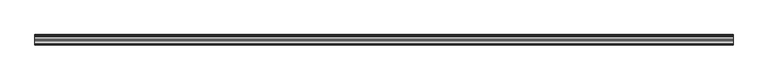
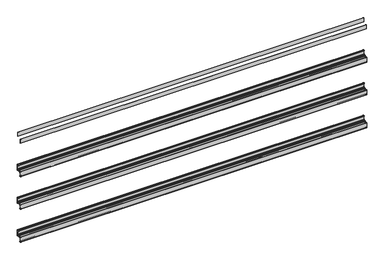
"""IFC4 building model written with IfcOpenShell, lengths in millimetres: fastener geometry."""

from ifc_helpers import new_model, si_unit, frame, origin, place, context, project, spatial, polyline, circle_curve, outline, extrude, source, transform, mapped, element, save
from ifc_brep_helpers import plane_surface, cylinder_surface, revolved_surface, advanced_brep


def fastener_a8222be2(model_context):
    return source(origin(), model_context, "Body", "SolidModel", [
        extrude(outline(polyline([(2540.0, -3.556), (2540.0, -5.2832), (0.0, -5.2832), (0.0, -3.556), (2540.0, -3.556)])), frame((0.0, 0.0, 1359.281), z_axis=(0.0, 0.0, 1.0), x_axis=(1.0, 0.0, 0.0)), (0.0, 0.0, 1.0), 30.988),
        extrude(outline(polyline([(2540.0, -33.7057766), (2540.0, -35.4329766), (0.0, -35.4329766), (0.0, -33.7057766), (2540.0, -33.7057766)])), frame((0.0, 0.0, 1324.102), z_axis=(0.0, 0.0, 1.0), x_axis=(1.0, 0.0, 0.0)), (0.0, 0.0, 1.0), 30.988),
        advanced_brep(
        [(2540.0, -3.556, 1136.269), (2540.0, -3.556, 1105.281), (2540.0, -5.2832, 1105.281), (2540.0, -5.2832, 1109.472), (2540.0, -7.3152, 1109.472), (2540.0, -7.3152, 1105.281), (2540.0, -8.0772, 1104.519), (2540.0, -17.7601563, 1104.519), (2540.0, -17.7601563, 1105.3674433), (2540.0, -20.4288947, 1105.3674433), (2540.0, -20.4288947, 1104.519), (2540.0, -37.3379766, 1104.519), (2540.0, -38.0999766, 1103.757), (2540.0, -38.1, 1067.5196758), (2540.0, -37.3379766, 1066.8), (2540.0, -33.7057766, 1066.8), (2540.0, -31.6737766, 1068.832), (2540.0, -31.6737766, 1071.118), (2540.0, -33.7057766, 1071.118), (2540.0, -33.7057766, 1070.102), (2540.0, -35.4329766, 1070.102), (2540.0, -35.4329766, 1101.09), (2540.0, -33.7057766, 1101.09), (2540.0, -33.7057766, 1096.899), (2540.0, -31.6737766, 1096.899), (2540.0, -31.6737766, 1101.09), (2540.0, -30.9117766, 1101.852), (2540.0, -20.4279799, 1101.852), (2540.0, -20.4279799, 1101.0030993), (2540.0, -17.7601563, 1101.0030993), (2540.0, -17.7601563, 1101.852), (2540.0, -3.429, 1101.852), (2540.0, -2.667, 1101.09), (2540.0, -2.667, 1094.994), (2540.0, 0.0, 1094.994), (2540.0, 0.0, 1138.809), (2540.0, -0.762, 1139.571), (2540.0, -5.2832, 1139.571), (2540.0, -7.3152, 1137.539), (2540.0, -7.3152, 1135.253), (2540.0, -5.2832, 1135.253), (2540.0, -5.2832, 1136.269), (0.0, -3.556, 1136.269), (0.0, -5.2832, 1136.269), (0.0, -5.2832, 1135.253), (0.0, -7.3152, 1135.253), (0.0, -7.3152, 1137.539), (0.0, -5.2832, 1139.571), (0.0, -0.762, 1139.571), (0.0, 0.0, 1138.809), (0.0, 0.0, 1094.994), (0.0, -2.667, 1094.994), (0.0, -2.667, 1101.09), (0.0, -3.429, 1101.852), (0.0, -17.7601563, 1101.852), (0.0, -17.7601563, 1101.0030993), (0.0, -20.4279799, 1101.0030993), (0.0, -20.4279799, 1101.852), (0.0, -30.9117766, 1101.852), (0.0, -31.6737766, 1101.09), (0.0, -31.6737766, 1096.899), (0.0, -33.7057766, 1096.899), (0.0, -33.7057766, 1101.09), (0.0, -35.4329766, 1101.09), (0.0, -35.4329766, 1070.102), (0.0, -33.7057766, 1070.102), (0.0, -33.7057766, 1071.118), (0.0, -31.6737766, 1071.118), (0.0, -31.6737766, 1068.832), (0.0, -33.7057766, 1066.8), (0.0, -37.3379766, 1066.8), (0.0, -38.0999766, 1067.562), (0.0, -38.1, 1103.6242174), (0.0, -37.3379766, 1104.519), (0.0, -20.4288947, 1104.519), (0.0, -20.4288947, 1105.3674433), (0.0, -17.7601563, 1105.3674433), (0.0, -17.7601563, 1104.519), (0.0, -8.0772, 1104.519), (0.0, -7.3152, 1105.281), (0.0, -7.3152, 1109.472), (0.0, -5.2832, 1109.472), (0.0, -5.2832, 1105.281), (0.0, -3.556, 1105.281)],
        [
            (0, 1),
            (1, 2, circle_curve(frame((2540.0, -4.4196, 1105.281), z_axis=(-1.0, 0.0, 0.0), x_axis=(0.0, 1.0, 0.0)), 0.8636)),
            (2, 3),
            (3, 4, circle_curve(frame((2540.0, -6.2992, 1109.472), z_axis=(1.0, 0.0, 0.0), x_axis=(0.0, 1.0, 0.0)), 1.016)),
            (4, 5),
            (5, 6, circle_curve(frame((2540.0, -8.0772, 1105.281), z_axis=(-1.0, 0.0, 0.0), x_axis=(0.0, 1.0, 0.0)), 0.762)),
            (6, 7),
            (7, 8),
            (8, 9, circle_curve(frame((2540.0, -19.0945255, 1105.3674433), z_axis=(1.0, 0.0, 0.0), x_axis=(0.0, 1.0, 0.0)), 1.3343692)),
            (9, 10),
            (10, 11),
            (11, 12, circle_curve(frame((2540.0, -37.3379766, 1103.757), z_axis=(1.0, 0.0, 0.0), x_axis=(0.0, 1.0, 0.0)), 0.762)),
            (12, 13),
            (13, 14, circle_curve(frame((2540.0, -37.3379766, 1067.562), z_axis=(1.0, 0.0, 0.0), x_axis=(0.0, 1.0, 0.0)), 0.762)),
            (14, 15),
            (15, 16, circle_curve(frame((2540.0, -33.7057766, 1068.832), z_axis=(1.0, 0.0, 0.0), x_axis=(0.0, 1.0, 0.0)), 2.032)),
            (16, 17),
            (17, 18, circle_curve(frame((2540.0, -32.6897766, 1071.118), z_axis=(1.0, 0.0, 0.0), x_axis=(0.0, 1.0, 0.0)), 1.016)),
            (18, 19),
            (19, 20, circle_curve(frame((2540.0, -34.5693766, 1070.102), z_axis=(-1.0, 0.0, 0.0), x_axis=(0.0, 1.0, 0.0)), 0.8636)),
            (20, 21),
            (21, 22, circle_curve(frame((2540.0, -34.5693766, 1101.09), z_axis=(-1.0, 0.0, 0.0), x_axis=(0.0, 1.0, 0.0)), 0.8636)),
            (22, 23),
            (23, 24, circle_curve(frame((2540.0, -32.6897766, 1096.899), z_axis=(1.0, 0.0, 0.0), x_axis=(0.0, 1.0, 0.0)), 1.016)),
            (24, 25),
            (25, 26, circle_curve(frame((2540.0, -30.9117766, 1101.09), z_axis=(-1.0, 0.0, 0.0), x_axis=(0.0, 1.0, 0.0)), 0.762)),
            (26, 27),
            (27, 28),
            (28, 29, circle_curve(frame((2540.0, -19.0940681, 1101.0030993), z_axis=(1.0, 0.0, 0.0), x_axis=(0.0, 1.0, 0.0)), 1.3339118)),
            (29, 30),
            (30, 31),
            (31, 32, circle_curve(frame((2540.0, -3.429, 1101.09), z_axis=(-1.0, 0.0, 0.0), x_axis=(0.0, 1.0, 0.0)), 0.762)),
            (32, 33),
            (33, 34, circle_curve(frame((2540.0, -1.3335, 1094.994), z_axis=(1.0, 0.0, 0.0), x_axis=(0.0, 1.0, 0.0)), 1.3335)),
            (34, 35),
            (35, 36, circle_curve(frame((2540.0, -0.762, 1138.809), z_axis=(1.0, 0.0, 0.0), x_axis=(0.0, 1.0, 0.0)), 0.762)),
            (36, 37),
            (37, 38, circle_curve(frame((2540.0, -5.2832, 1137.539), z_axis=(1.0, 0.0, 0.0), x_axis=(0.0, 1.0, 0.0)), 2.032)),
            (38, 39),
            (39, 40, circle_curve(frame((2540.0, -6.2992, 1135.253), z_axis=(1.0, 0.0, 0.0), x_axis=(0.0, 1.0, 0.0)), 1.016)),
            (40, 41),
            (41, 0, circle_curve(frame((2540.0, -4.4196, 1136.269), z_axis=(-1.0, 0.0, 0.0), x_axis=(0.0, 1.0, 0.0)), 0.8636)),
            (42, 43, circle_curve(frame((0.0, -4.4196, 1136.269), z_axis=(1.0, 0.0, 0.0), x_axis=(0.0, 1.0, 0.0)), 0.8636)),
            (43, 44),
            (44, 45, circle_curve(frame((0.0, -6.2992, 1135.253), z_axis=(-1.0, 0.0, 0.0), x_axis=(0.0, 1.0, 0.0)), 1.016)),
            (45, 46),
            (46, 47, circle_curve(frame((0.0, -5.2832, 1137.539), z_axis=(-1.0, 0.0, 0.0), x_axis=(0.0, 1.0, 0.0)), 2.032)),
            (47, 48),
            (48, 49, circle_curve(frame((0.0, -0.762, 1138.809), z_axis=(-1.0, 0.0, 0.0), x_axis=(0.0, 1.0, 0.0)), 0.762)),
            (49, 50),
            (50, 51, circle_curve(frame((0.0, -1.3335, 1094.994), z_axis=(-1.0, 0.0, 0.0), x_axis=(0.0, 1.0, 0.0)), 1.3335)),
            (51, 52),
            (52, 53, circle_curve(frame((0.0, -3.429, 1101.09), z_axis=(1.0, 0.0, 0.0), x_axis=(0.0, 1.0, 0.0)), 0.762)),
            (53, 54),
            (54, 55),
            (55, 56, circle_curve(frame((0.0, -19.0940681, 1101.0030993), z_axis=(-1.0, 0.0, 0.0), x_axis=(0.0, 1.0, 0.0)), 1.3339118)),
            (56, 57),
            (57, 58),
            (58, 59, circle_curve(frame((0.0, -30.9117766, 1101.09), z_axis=(1.0, 0.0, 0.0), x_axis=(0.0, 1.0, 0.0)), 0.762)),
            (59, 60),
            (60, 61, circle_curve(frame((0.0, -32.6897766, 1096.899), z_axis=(-1.0, 0.0, 0.0), x_axis=(0.0, 1.0, 0.0)), 1.016)),
            (61, 62),
            (62, 63, circle_curve(frame((0.0, -34.5693766, 1101.09), z_axis=(1.0, 0.0, 0.0), x_axis=(0.0, 1.0, 0.0)), 0.8636)),
            (63, 64),
            (64, 65, circle_curve(frame((0.0, -34.5693766, 1070.102), z_axis=(1.0, 0.0, 0.0), x_axis=(0.0, 1.0, 0.0)), 0.8636)),
            (65, 66),
            (66, 67, circle_curve(frame((0.0, -32.6897766, 1071.118), z_axis=(-1.0, 0.0, 0.0), x_axis=(0.0, 1.0, 0.0)), 1.016)),
            (67, 68),
            (68, 69, circle_curve(frame((0.0, -33.7057766, 1068.832), z_axis=(-1.0, 0.0, 0.0), x_axis=(0.0, 1.0, 0.0)), 2.032)),
            (69, 70),
            (70, 71, circle_curve(frame((0.0, -37.3379766, 1067.562), z_axis=(-1.0, 0.0, 0.0), x_axis=(0.0, 1.0, 0.0)), 0.762)),
            (71, 72),
            (72, 73, circle_curve(frame((0.0, -37.3379766, 1103.757), z_axis=(-1.0, 0.0, 0.0), x_axis=(0.0, 1.0, 0.0)), 0.762)),
            (73, 74),
            (74, 75),
            (75, 76, circle_curve(frame((0.0, -19.0945255, 1105.3674433), z_axis=(-1.0, 0.0, 0.0), x_axis=(0.0, 1.0, 0.0)), 1.3343692)),
            (76, 77),
            (77, 78),
            (78, 79, circle_curve(frame((0.0, -8.0772, 1105.281), z_axis=(1.0, 0.0, 0.0), x_axis=(0.0, 1.0, 0.0)), 0.762)),
            (79, 80),
            (80, 81, circle_curve(frame((0.0, -6.2992, 1109.472), z_axis=(-1.0, 0.0, 0.0), x_axis=(0.0, 1.0, 0.0)), 1.016)),
            (81, 82),
            (82, 83, circle_curve(frame((0.0, -4.4196, 1105.281), z_axis=(1.0, 0.0, 0.0), x_axis=(0.0, 1.0, 0.0)), 0.8636)),
            (83, 42),
            (0, 42),
            (83, 1),
            (82, 2),
            (81, 3),
            (80, 4),
            (79, 5),
            (78, 6),
            (77, 7),
            (76, 8),
            (75, 9),
            (74, 10),
            (73, 11),
            (72, 12),
            (71, 13),
            (70, 14),
            (69, 15),
            (68, 16),
            (67, 17),
            (66, 18),
            (65, 19),
            (64, 20),
            (63, 21),
            (62, 22),
            (61, 23),
            (60, 24),
            (59, 25),
            (58, 26),
            (57, 27),
            (56, 28),
            (55, 29),
            (54, 30),
            (53, 31),
            (52, 32),
            (51, 33),
            (50, 34),
            (49, 35),
            (48, 36),
            (47, 37),
            (46, 38),
            (45, 39),
            (44, 40),
            (43, 41),
        ],
        [
            plane_surface(frame((2540.0, -3.556, 1105.281), z_axis=(1.0, 0.0, 0.0), x_axis=(0.0, 0.0, -1.0))),
            plane_surface(frame((0.0, -3.556, 1105.281), z_axis=(-1.0, 0.0, 0.0), x_axis=(0.0, 0.0, 1.0))),
            plane_surface(frame((2540.0, -3.556, 1136.269), z_axis=(0.0, -1.0, 0.0), x_axis=(-1.0, 0.0, 0.0))),
            revolved_surface(polyline([(0.0, -3.556, 1105.281), (2540.0, -3.556, 1105.281)]), (0.0, -4.4196, 1105.281), (-1.0, 0.0, 0.0)),
            plane_surface(frame((2540.0, -5.2832, 1105.281), z_axis=(0.0, 1.0, 0.0), x_axis=(-1.0, 0.0, 0.0))),
            cylinder_surface(frame((0.0, -6.2992, 1109.472), z_axis=(1.0, 0.0, 0.0), x_axis=(0.0, 1.0, 0.0)), 1.016),
            plane_surface(frame((2540.0, -7.3152, 1109.472), z_axis=(0.0, -1.0, 0.0), x_axis=(-1.0, 0.0, 0.0))),
            revolved_surface(polyline([(0.0, -7.315199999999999, 1105.281), (2540.0, -7.315199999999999, 1105.281)]), (0.0, -8.0772, 1105.281), (-1.0, 0.0, 0.0)),
            plane_surface(frame((2540.0, -8.0772, 1104.519), z_axis=(0.0, 0.0, 1.0), x_axis=(-1.0, 0.0, 0.0))),
            plane_surface(frame((2540.0, -17.7601563, 1104.519), z_axis=(0.0, 1.0, 0.0), x_axis=(-1.0, 0.0, 0.0))),
            cylinder_surface(frame((0.0, -19.0945255, 1105.3674433), z_axis=(1.0, 0.0, 0.0), x_axis=(0.0, 1.0, 0.0)), 1.3343692),
            plane_surface(frame((2540.0, -20.4288947, 1105.3674433), z_axis=(0.0, -1.0, 0.0), x_axis=(-1.0, 0.0, 0.0))),
            plane_surface(frame((2540.0, -20.4288947, 1104.519), z_axis=(0.0, 0.0, 1.0), x_axis=(-1.0, 0.0, 0.0))),
            cylinder_surface(frame((0.0, -37.3379766, 1103.757), z_axis=(1.0, 0.0, 0.0), x_axis=(0.0, 1.0, 0.0)), 0.762),
            plane_surface(frame((2540.0, -38.1, 1103.6242174), z_axis=(0.0, -1.0, 0.0), x_axis=(-1.0, 0.0, 0.0))),
            cylinder_surface(frame((0.0, -37.3379766, 1067.562), z_axis=(1.0, 0.0, 0.0), x_axis=(0.0, 1.0, 0.0)), 0.762),
            plane_surface(frame((2540.0, -37.3379766, 1066.8), z_axis=(0.0, 1.080720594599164e-12, -1.0), x_axis=(-1.0, 0.0, 0.0))),
            cylinder_surface(frame((0.0, -33.7057766, 1068.832), z_axis=(1.0, 0.0, 0.0), x_axis=(0.0, 1.0, 0.0)), 2.032),
            plane_surface(frame((2540.0, -31.6737766, 1068.832), z_axis=(0.0, 1.0, 0.0), x_axis=(-1.0, 0.0, 0.0))),
            cylinder_surface(frame((0.0, -32.6897766, 1071.118), z_axis=(1.0, 0.0, 0.0), x_axis=(0.0, 1.0, 0.0)), 1.016),
            plane_surface(frame((2540.0, -33.7057766, 1071.118), z_axis=(0.0, -1.0, 0.0), x_axis=(-1.0, 0.0, 0.0))),
            revolved_surface(polyline([(0.0, -33.7057766, 1070.102), (2540.0, -33.7057766, 1070.102)]), (0.0, -34.5693766, 1070.102), (-1.0, 0.0, 0.0)),
            plane_surface(frame((2540.0, -35.4329766, 1070.102), z_axis=(0.0, 1.0, 0.0), x_axis=(-1.0, 0.0, 0.0))),
            revolved_surface(polyline([(0.0, -33.7057766, 1101.09), (2540.0, -33.7057766, 1101.09)]), (0.0, -34.5693766, 1101.09), (-1.0, 0.0, 0.0)),
            plane_surface(frame((2540.0, -33.7057766, 1101.09), z_axis=(0.0, -1.0, 0.0), x_axis=(-1.0, 0.0, 0.0))),
            cylinder_surface(frame((0.0, -32.6897766, 1096.899), z_axis=(1.0, 0.0, 0.0), x_axis=(0.0, 1.0, 0.0)), 1.016),
            plane_surface(frame((2540.0, -31.6737766, 1096.899), z_axis=(0.0, 1.0, 0.0), x_axis=(-1.0, 0.0, 0.0))),
            revolved_surface(polyline([(0.0, -30.1497766, 1101.09), (2540.0, -30.1497766, 1101.09)]), (0.0, -30.9117766, 1101.09), (-1.0, 0.0, 0.0)),
            plane_surface(frame((2540.0, -30.9117766, 1101.852), z_axis=(0.0, 0.0, -1.0), x_axis=(-1.0, 0.0, 0.0))),
            plane_surface(frame((2540.0, -20.4279799, 1101.852), z_axis=(0.0, -1.0, 0.0), x_axis=(-1.0, 0.0, 0.0))),
            cylinder_surface(frame((0.0, -19.0940681, 1101.0030993), z_axis=(1.0, 0.0, 0.0), x_axis=(0.0, 1.0, 0.0)), 1.3339118),
            plane_surface(frame((2540.0, -17.7601563, 1101.0030993), z_axis=(0.0, 1.0, 0.0), x_axis=(-1.0, 0.0, 0.0))),
            plane_surface(frame((2540.0, -17.7601563, 1101.852), z_axis=(0.0, 0.0, -1.0), x_axis=(-1.0, 0.0, 0.0))),
            revolved_surface(polyline([(0.0, -2.667, 1101.09), (2540.0, -2.667, 1101.09)]), (0.0, -3.429, 1101.09), (-1.0, 0.0, 0.0)),
            plane_surface(frame((2540.0, -2.667, 1101.09), z_axis=(0.0, -1.0, 0.0), x_axis=(-1.0, 0.0, 0.0))),
            cylinder_surface(frame((0.0, -1.3335, 1094.994), z_axis=(1.0, 0.0, 0.0), x_axis=(0.0, 1.0, 0.0)), 1.3335),
            plane_surface(frame((2540.0, 0.0, 1094.994), z_axis=(0.0, 1.0, 0.0), x_axis=(-1.0, 0.0, 0.0))),
            cylinder_surface(frame((0.0, -0.762, 1138.809), z_axis=(1.0, 0.0, 0.0), x_axis=(0.0, 1.0, 0.0)), 0.762),
            plane_surface(frame((2540.0, -0.762, 1139.571), z_axis=(0.0, 1.6915308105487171e-12, 1.0), x_axis=(-1.0, 0.0, 0.0))),
            cylinder_surface(frame((0.0, -5.2832, 1137.539), z_axis=(1.0, 0.0, 0.0), x_axis=(0.0, 1.0, 0.0)), 2.032),
            plane_surface(frame((2540.0, -7.3152, 1137.539), z_axis=(0.0, -1.0, 0.0), x_axis=(-1.0, 0.0, 0.0))),
            cylinder_surface(frame((0.0, -6.2992, 1135.253), z_axis=(1.0, 0.0, 0.0), x_axis=(0.0, 1.0, 0.0)), 1.016),
            plane_surface(frame((2540.0, -5.2832, 1135.253), z_axis=(0.0, 1.0, 0.0), x_axis=(-1.0, 0.0, 0.0))),
            revolved_surface(polyline([(0.0, -3.556, 1136.269), (2540.0, -3.556, 1136.269)]), (0.0, -4.4196, 1136.269), (-1.0, 0.0, 0.0)),
        ],
        [
            (0, [[1, 2, 3, 4, 5, 6, 7, 8, 9, 10, 11, 12, 13, 14, 15, 16, 17, 18, 19, 20, 21, 22, 23, 24, 25, 26, 27, 28, 29, 30, 31, 32, 33, 34, 35, 36, 37, 38, 39, 40, 41, 42]]),
            (1, [[43, 44, 45, 46, 47, 48, 49, 50, 51, 52, 53, 54, 55, 56, 57, 58, 59, 60, 61, 62, 63, 64, 65, 66, 67, 68, 69, 70, 71, 72, 73, 74, 75, 76, 77, 78, 79, 80, 81, 82, 83, 84]]),
            (2, [[-1, 85, -84, 86]]),
            (3, [[-2, -86, -83, 87]]),
            (4, [[-3, -87, -82, 88]]),
            (5, [[-4, -88, -81, 89]]),
            (6, [[-5, -89, -80, 90]]),
            (7, [[-6, -90, -79, 91]]),
            (8, [[-7, -91, -78, 92]]),
            (9, [[-8, -92, -77, 93]]),
            (10, [[-9, -93, -76, 94]]),
            (11, [[-10, -94, -75, 95]]),
            (12, [[-11, -95, -74, 96]]),
            (13, [[-12, -96, -73, 97]]),
            (14, [[-13, -97, -72, 98]]),
            (15, [[-14, -98, -71, 99]]),
            (16, [[-15, -99, -70, 100]]),
            (17, [[-16, -100, -69, 101]]),
            (18, [[-17, -101, -68, 102]]),
            (19, [[-18, -102, -67, 103]]),
            (20, [[-19, -103, -66, 104]]),
            (21, [[-20, -104, -65, 105]]),
            (22, [[-21, -105, -64, 106]]),
            (23, [[-22, -106, -63, 107]]),
            (24, [[-23, -107, -62, 108]]),
            (25, [[-24, -108, -61, 109]]),
            (26, [[-25, -109, -60, 110]]),
            (27, [[-26, -110, -59, 111]]),
            (28, [[-27, -111, -58, 112]]),
            (29, [[-28, -112, -57, 113]]),
            (30, [[-29, -113, -56, 114]]),
            (31, [[-30, -114, -55, 115]]),
            (32, [[-31, -115, -54, 116]]),
            (33, [[-32, -116, -53, 117]]),
            (34, [[-33, -117, -52, 118]]),
            (35, [[-34, -118, -51, 119]]),
            (36, [[-35, -119, -50, 120]]),
            (37, [[-36, -120, -49, 121]]),
            (38, [[-37, -121, -48, 122]]),
            (39, [[-38, -122, -47, 123]]),
            (40, [[-39, -123, -46, 124]]),
            (41, [[-40, -124, -45, 125]]),
            (42, [[-41, -125, -44, 126]]),
            (43, [[-42, -126, -43, -85]]),
        ],
    ),
        extrude(outline(polyline([(2540.0, -3.556), (2540.0, -5.2832), (0.0, -5.2832), (0.0, -3.556), (2540.0, -3.556)])), frame((0.0, 0.0, 1105.281), z_axis=(0.0, 0.0, 1.0), x_axis=(1.0, 0.0, 0.0)), (0.0, 0.0, 1.0), 30.988),
        extrude(outline(polyline([(2540.0, -33.7057766), (2540.0, -35.4329766), (0.0, -35.4329766), (0.0, -33.7057766), (2540.0, -33.7057766)])), frame((0.0, 0.0, 1070.102), z_axis=(0.0, 0.0, 1.0), x_axis=(1.0, 0.0, 0.0)), (0.0, 0.0, 1.0), 30.988),
        advanced_brep(
        [(2540.0, -3.556, 882.269), (2540.0, -3.556, 851.281), (2540.0, -5.2832, 851.281), (2540.0, -5.2832, 855.472), (2540.0, -7.3152, 855.472), (2540.0, -7.3152, 851.281), (2540.0, -8.0772, 850.519), (2540.0, -17.7601563, 850.519), (2540.0, -17.7601563, 851.3674433), (2540.0, -20.4288947, 851.3674433), (2540.0, -20.4288947, 850.519), (2540.0, -37.3379766, 850.519), (2540.0, -38.0999766, 849.757), (2540.0, -38.1, 813.5196758), (2540.0, -37.3379766, 812.8), (2540.0, -33.7057766, 812.8), (2540.0, -31.6737766, 814.832), (2540.0, -31.6737766, 817.118), (2540.0, -33.7057766, 817.118), (2540.0, -33.7057766, 816.102), (2540.0, -35.4329766, 816.102), (2540.0, -35.4329766, 847.09), (2540.0, -33.7057766, 847.09), (2540.0, -33.7057766, 842.899), (2540.0, -31.6737766, 842.899), (2540.0, -31.6737766, 847.09), (2540.0, -30.9117766, 847.852), (2540.0, -20.4279799, 847.852), (2540.0, -20.4279799, 847.0030993), (2540.0, -17.7601563, 847.0030993), (2540.0, -17.7601563, 847.852), (2540.0, -3.429, 847.852), (2540.0, -2.667, 847.09), (2540.0, -2.667, 840.994), (2540.0, 0.0, 840.994), (2540.0, 0.0, 884.809), (2540.0, -0.762, 885.571), (2540.0, -5.2832, 885.571), (2540.0, -7.3152, 883.539), (2540.0, -7.3152, 881.253), (2540.0, -5.2832, 881.253), (2540.0, -5.2832, 882.269), (0.0, -3.556, 882.269), (0.0, -5.2832, 882.269), (0.0, -5.2832, 881.253), (0.0, -7.3152, 881.253), (0.0, -7.3152, 883.539), (0.0, -5.2832, 885.571), (0.0, -0.762, 885.571), (0.0, 0.0, 884.809), (0.0, 0.0, 840.994), (0.0, -2.667, 840.994), (0.0, -2.667, 847.09), (0.0, -3.429, 847.852), (0.0, -17.7601563, 847.852), (0.0, -17.7601563, 847.0030993), (0.0, -20.4279799, 847.0030993), (0.0, -20.4279799, 847.852), (0.0, -30.9117766, 847.852), (0.0, -31.6737766, 847.09), (0.0, -31.6737766, 842.899), (0.0, -33.7057766, 842.899), (0.0, -33.7057766, 847.09), (0.0, -35.4329766, 847.09), (0.0, -35.4329766, 816.102), (0.0, -33.7057766, 816.102), (0.0, -33.7057766, 817.118), (0.0, -31.6737766, 817.118), (0.0, -31.6737766, 814.832), (0.0, -33.7057766, 812.8), (0.0, -37.3379766, 812.8), (0.0, -38.0999766, 813.562), (0.0, -38.1, 849.6242174), (0.0, -37.3379766, 850.519), (0.0, -20.4288947, 850.519), (0.0, -20.4288947, 851.3674433), (0.0, -17.7601563, 851.3674433), (0.0, -17.7601563, 850.519), (0.0, -8.0772, 850.519), (0.0, -7.3152, 851.281), (0.0, -7.3152, 855.472), (0.0, -5.2832, 855.472), (0.0, -5.2832, 851.281), (0.0, -3.556, 851.281)],
        [
            (0, 1),
            (1, 2, circle_curve(frame((2540.0, -4.4196, 851.281), z_axis=(-1.0, 0.0, 0.0), x_axis=(0.0, 1.0, 0.0)), 0.8636)),
            (2, 3),
            (3, 4, circle_curve(frame((2540.0, -6.2992, 855.472), z_axis=(1.0, 0.0, 0.0), x_axis=(0.0, 1.0, 0.0)), 1.016)),
            (4, 5),
            (5, 6, circle_curve(frame((2540.0, -8.0772, 851.281), z_axis=(-1.0, 0.0, 0.0), x_axis=(0.0, 1.0, 0.0)), 0.762)),
            (6, 7),
            (7, 8),
            (8, 9, circle_curve(frame((2540.0, -19.0945255, 851.3674433), z_axis=(1.0, 0.0, 0.0), x_axis=(0.0, 1.0, 0.0)), 1.3343692)),
            (9, 10),
            (10, 11),
            (11, 12, circle_curve(frame((2540.0, -37.3379766, 849.757), z_axis=(1.0, 0.0, 0.0), x_axis=(0.0, 1.0, 0.0)), 0.762)),
            (12, 13),
            (13, 14, circle_curve(frame((2540.0, -37.3379766, 813.562), z_axis=(1.0, 0.0, 0.0), x_axis=(0.0, 1.0, 0.0)), 0.762)),
            (14, 15),
            (15, 16, circle_curve(frame((2540.0, -33.7057766, 814.832), z_axis=(1.0, 0.0, 0.0), x_axis=(0.0, 1.0, 0.0)), 2.032)),
            (16, 17),
            (17, 18, circle_curve(frame((2540.0, -32.6897766, 817.118), z_axis=(1.0, 0.0, 0.0), x_axis=(0.0, 1.0, 0.0)), 1.016)),
            (18, 19),
            (19, 20, circle_curve(frame((2540.0, -34.5693766, 816.102), z_axis=(-1.0, 0.0, 0.0), x_axis=(0.0, 1.0, 0.0)), 0.8636)),
            (20, 21),
            (21, 22, circle_curve(frame((2540.0, -34.5693766, 847.09), z_axis=(-1.0, 0.0, 0.0), x_axis=(0.0, 1.0, 0.0)), 0.8636)),
            (22, 23),
            (23, 24, circle_curve(frame((2540.0, -32.6897766, 842.899), z_axis=(1.0, 0.0, 0.0), x_axis=(0.0, 1.0, 0.0)), 1.016)),
            (24, 25),
            (25, 26, circle_curve(frame((2540.0, -30.9117766, 847.09), z_axis=(-1.0, 0.0, 0.0), x_axis=(0.0, 1.0, 0.0)), 0.762)),
            (26, 27),
            (27, 28),
            (28, 29, circle_curve(frame((2540.0, -19.0940681, 847.0030993), z_axis=(1.0, 0.0, 0.0), x_axis=(0.0, 1.0, 0.0)), 1.3339118)),
            (29, 30),
            (30, 31),
            (31, 32, circle_curve(frame((2540.0, -3.429, 847.09), z_axis=(-1.0, 0.0, 0.0), x_axis=(0.0, 1.0, 0.0)), 0.762)),
            (32, 33),
            (33, 34, circle_curve(frame((2540.0, -1.3335, 840.994), z_axis=(1.0, 0.0, 0.0), x_axis=(0.0, 1.0, 0.0)), 1.3335)),
            (34, 35),
            (35, 36, circle_curve(frame((2540.0, -0.762, 884.809), z_axis=(1.0, 0.0, 0.0), x_axis=(0.0, 1.0, 0.0)), 0.762)),
            (36, 37),
            (37, 38, circle_curve(frame((2540.0, -5.2832, 883.539), z_axis=(1.0, 0.0, 0.0), x_axis=(0.0, 1.0, 0.0)), 2.032)),
            (38, 39),
            (39, 40, circle_curve(frame((2540.0, -6.2992, 881.253), z_axis=(1.0, 0.0, 0.0), x_axis=(0.0, 1.0, 0.0)), 1.016)),
            (40, 41),
            (41, 0, circle_curve(frame((2540.0, -4.4196, 882.269), z_axis=(-1.0, 0.0, 0.0), x_axis=(0.0, 1.0, 0.0)), 0.8636)),
            (42, 43, circle_curve(frame((0.0, -4.4196, 882.269), z_axis=(1.0, 0.0, 0.0), x_axis=(0.0, 1.0, 0.0)), 0.8636)),
            (43, 44),
            (44, 45, circle_curve(frame((0.0, -6.2992, 881.253), z_axis=(-1.0, 0.0, 0.0), x_axis=(0.0, 1.0, 0.0)), 1.016)),
            (45, 46),
            (46, 47, circle_curve(frame((0.0, -5.2832, 883.539), z_axis=(-1.0, 0.0, 0.0), x_axis=(0.0, 1.0, 0.0)), 2.032)),
            (47, 48),
            (48, 49, circle_curve(frame((0.0, -0.762, 884.809), z_axis=(-1.0, 0.0, 0.0), x_axis=(0.0, 1.0, 0.0)), 0.762)),
            (49, 50),
            (50, 51, circle_curve(frame((0.0, -1.3335, 840.994), z_axis=(-1.0, 0.0, 0.0), x_axis=(0.0, 1.0, 0.0)), 1.3335)),
            (51, 52),
            (52, 53, circle_curve(frame((0.0, -3.429, 847.09), z_axis=(1.0, 0.0, 0.0), x_axis=(0.0, 1.0, 0.0)), 0.762)),
            (53, 54),
            (54, 55),
            (55, 56, circle_curve(frame((0.0, -19.0940681, 847.0030993), z_axis=(-1.0, 0.0, 0.0), x_axis=(0.0, 1.0, 0.0)), 1.3339118)),
            (56, 57),
            (57, 58),
            (58, 59, circle_curve(frame((0.0, -30.9117766, 847.09), z_axis=(1.0, 0.0, 0.0), x_axis=(0.0, 1.0, 0.0)), 0.762)),
            (59, 60),
            (60, 61, circle_curve(frame((0.0, -32.6897766, 842.899), z_axis=(-1.0, 0.0, 0.0), x_axis=(0.0, 1.0, 0.0)), 1.016)),
            (61, 62),
            (62, 63, circle_curve(frame((0.0, -34.5693766, 847.09), z_axis=(1.0, 0.0, 0.0), x_axis=(0.0, 1.0, 0.0)), 0.8636)),
            (63, 64),
            (64, 65, circle_curve(frame((0.0, -34.5693766, 816.102), z_axis=(1.0, 0.0, 0.0), x_axis=(0.0, 1.0, 0.0)), 0.8636)),
            (65, 66),
            (66, 67, circle_curve(frame((0.0, -32.6897766, 817.118), z_axis=(-1.0, 0.0, 0.0), x_axis=(0.0, 1.0, 0.0)), 1.016)),
            (67, 68),
            (68, 69, circle_curve(frame((0.0, -33.7057766, 814.832), z_axis=(-1.0, 0.0, 0.0), x_axis=(0.0, 1.0, 0.0)), 2.032)),
            (69, 70),
            (70, 71, circle_curve(frame((0.0, -37.3379766, 813.562), z_axis=(-1.0, 0.0, 0.0), x_axis=(0.0, 1.0, 0.0)), 0.762)),
            (71, 72),
            (72, 73, circle_curve(frame((0.0, -37.3379766, 849.757), z_axis=(-1.0, 0.0, 0.0), x_axis=(0.0, 1.0, 0.0)), 0.762)),
            (73, 74),
            (74, 75),
            (75, 76, circle_curve(frame((0.0, -19.0945255, 851.3674433), z_axis=(-1.0, 0.0, 0.0), x_axis=(0.0, 1.0, 0.0)), 1.3343692)),
            (76, 77),
            (77, 78),
            (78, 79, circle_curve(frame((0.0, -8.0772, 851.281), z_axis=(1.0, 0.0, 0.0), x_axis=(0.0, 1.0, 0.0)), 0.762)),
            (79, 80),
            (80, 81, circle_curve(frame((0.0, -6.2992, 855.472), z_axis=(-1.0, 0.0, 0.0), x_axis=(0.0, 1.0, 0.0)), 1.016)),
            (81, 82),
            (82, 83, circle_curve(frame((0.0, -4.4196, 851.281), z_axis=(1.0, 0.0, 0.0), x_axis=(0.0, 1.0, 0.0)), 0.8636)),
            (83, 42),
            (0, 42),
            (83, 1),
            (82, 2),
            (81, 3),
            (80, 4),
            (79, 5),
            (78, 6),
            (77, 7),
            (76, 8),
            (75, 9),
            (74, 10),
            (73, 11),
            (72, 12),
            (71, 13),
            (70, 14),
            (69, 15),
            (68, 16),
            (67, 17),
            (66, 18),
            (65, 19),
            (64, 20),
            (63, 21),
            (62, 22),
            (61, 23),
            (60, 24),
            (59, 25),
            (58, 26),
            (57, 27),
            (56, 28),
            (55, 29),
            (54, 30),
            (53, 31),
            (52, 32),
            (51, 33),
            (50, 34),
            (49, 35),
            (48, 36),
            (47, 37),
            (46, 38),
            (45, 39),
            (44, 40),
            (43, 41),
        ],
        [
            plane_surface(frame((2540.0, -3.556, 851.281), z_axis=(1.0, 0.0, 0.0), x_axis=(0.0, 0.0, -1.0))),
            plane_surface(frame((0.0, -3.556, 851.281), z_axis=(-1.0, 0.0, 0.0), x_axis=(0.0, 0.0, 1.0))),
            plane_surface(frame((2540.0, -3.556, 882.269), z_axis=(0.0, -1.0, 0.0), x_axis=(-1.0, 0.0, 0.0))),
            revolved_surface(polyline([(0.0, -3.556, 851.281), (2540.0, -3.556, 851.281)]), (0.0, -4.4196, 851.281), (-1.0, 0.0, 0.0)),
            plane_surface(frame((2540.0, -5.2832, 851.281), z_axis=(0.0, 1.0, 0.0), x_axis=(-1.0, 0.0, 0.0))),
            cylinder_surface(frame((0.0, -6.2992, 855.472), z_axis=(1.0, 0.0, 0.0), x_axis=(0.0, 1.0, 0.0)), 1.016),
            plane_surface(frame((2540.0, -7.3152, 855.472), z_axis=(0.0, -1.0, 0.0), x_axis=(-1.0, 0.0, 0.0))),
            revolved_surface(polyline([(0.0, -7.315199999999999, 851.281), (2540.0, -7.315199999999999, 851.281)]), (0.0, -8.0772, 851.281), (-1.0, 0.0, 0.0)),
            plane_surface(frame((2540.0, -8.0772, 850.519), z_axis=(0.0, 0.0, 1.0), x_axis=(-1.0, 0.0, 0.0))),
            plane_surface(frame((2540.0, -17.7601563, 850.519), z_axis=(0.0, 1.0, 0.0), x_axis=(-1.0, 0.0, 0.0))),
            cylinder_surface(frame((0.0, -19.0945255, 851.3674433), z_axis=(1.0, 0.0, 0.0), x_axis=(0.0, 1.0, 0.0)), 1.3343692),
            plane_surface(frame((2540.0, -20.4288947, 851.3674433), z_axis=(0.0, -1.0, 0.0), x_axis=(-1.0, 0.0, 0.0))),
            plane_surface(frame((2540.0, -20.4288947, 850.519), z_axis=(0.0, 0.0, 1.0), x_axis=(-1.0, 0.0, 0.0))),
            cylinder_surface(frame((0.0, -37.3379766, 849.757), z_axis=(1.0, 0.0, 0.0), x_axis=(0.0, 1.0, 0.0)), 0.762),
            plane_surface(frame((2540.0, -38.1, 849.6242174), z_axis=(0.0, -1.0, 0.0), x_axis=(-1.0, 0.0, 0.0))),
            cylinder_surface(frame((0.0, -37.3379766, 813.562), z_axis=(1.0, 0.0, 0.0), x_axis=(0.0, 1.0, 0.0)), 0.762),
            plane_surface(frame((2540.0, -37.3379766, 812.8), z_axis=(0.0, 1.080720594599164e-12, -1.0), x_axis=(-1.0, 0.0, 0.0))),
            cylinder_surface(frame((0.0, -33.7057766, 814.832), z_axis=(1.0, 0.0, 0.0), x_axis=(0.0, 1.0, 0.0)), 2.032),
            plane_surface(frame((2540.0, -31.6737766, 814.832), z_axis=(0.0, 1.0, 0.0), x_axis=(-1.0, 0.0, 0.0))),
            cylinder_surface(frame((0.0, -32.6897766, 817.118), z_axis=(1.0, 0.0, 0.0), x_axis=(0.0, 1.0, 0.0)), 1.016),
            plane_surface(frame((2540.0, -33.7057766, 817.118), z_axis=(0.0, -1.0, 0.0), x_axis=(-1.0, 0.0, 0.0))),
            revolved_surface(polyline([(0.0, -33.7057766, 816.102), (2540.0, -33.7057766, 816.102)]), (0.0, -34.5693766, 816.102), (-1.0, 0.0, 0.0)),
            plane_surface(frame((2540.0, -35.4329766, 816.102), z_axis=(0.0, 1.0, 0.0), x_axis=(-1.0, 0.0, 0.0))),
            revolved_surface(polyline([(0.0, -33.7057766, 847.09), (2540.0, -33.7057766, 847.09)]), (0.0, -34.5693766, 847.09), (-1.0, 0.0, 0.0)),
            plane_surface(frame((2540.0, -33.7057766, 847.09), z_axis=(0.0, -1.0, 0.0), x_axis=(-1.0, 0.0, 0.0))),
            cylinder_surface(frame((0.0, -32.6897766, 842.899), z_axis=(1.0, 0.0, 0.0), x_axis=(0.0, 1.0, 0.0)), 1.016),
            plane_surface(frame((2540.0, -31.6737766, 842.899), z_axis=(0.0, 1.0, 0.0), x_axis=(-1.0, 0.0, 0.0))),
            revolved_surface(polyline([(0.0, -30.1497766, 847.09), (2540.0, -30.1497766, 847.09)]), (0.0, -30.9117766, 847.09), (-1.0, 0.0, 0.0)),
            plane_surface(frame((2540.0, -30.9117766, 847.852), z_axis=(0.0, 0.0, -1.0), x_axis=(-1.0, 0.0, 0.0))),
            plane_surface(frame((2540.0, -20.4279799, 847.852), z_axis=(0.0, -1.0, 0.0), x_axis=(-1.0, 0.0, 0.0))),
            cylinder_surface(frame((0.0, -19.0940681, 847.0030993), z_axis=(1.0, 0.0, 0.0), x_axis=(0.0, 1.0, 0.0)), 1.3339118),
            plane_surface(frame((2540.0, -17.7601563, 847.0030993), z_axis=(0.0, 1.0, 0.0), x_axis=(-1.0, 0.0, 0.0))),
            plane_surface(frame((2540.0, -17.7601563, 847.852), z_axis=(0.0, 0.0, -1.0), x_axis=(-1.0, 0.0, 0.0))),
            revolved_surface(polyline([(0.0, -2.667, 847.09), (2540.0, -2.667, 847.09)]), (0.0, -3.429, 847.09), (-1.0, 0.0, 0.0)),
            plane_surface(frame((2540.0, -2.667, 847.09), z_axis=(0.0, -1.0, 0.0), x_axis=(-1.0, 0.0, 0.0))),
            cylinder_surface(frame((0.0, -1.3335, 840.994), z_axis=(1.0, 0.0, 0.0), x_axis=(0.0, 1.0, 0.0)), 1.3335),
            plane_surface(frame((2540.0, 0.0, 840.994), z_axis=(0.0, 1.0, 0.0), x_axis=(-1.0, 0.0, 0.0))),
            cylinder_surface(frame((0.0, -0.762, 884.809), z_axis=(1.0, 0.0, 0.0), x_axis=(0.0, 1.0, 0.0)), 0.762),
            plane_surface(frame((2540.0, -0.762, 885.571), z_axis=(0.0, 1.6915308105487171e-12, 1.0), x_axis=(-1.0, 0.0, 0.0))),
            cylinder_surface(frame((0.0, -5.2832, 883.539), z_axis=(1.0, 0.0, 0.0), x_axis=(0.0, 1.0, 0.0)), 2.032),
            plane_surface(frame((2540.0, -7.3152, 883.539), z_axis=(0.0, -1.0, 0.0), x_axis=(-1.0, 0.0, 0.0))),
            cylinder_surface(frame((0.0, -6.2992, 881.253), z_axis=(1.0, 0.0, 0.0), x_axis=(0.0, 1.0, 0.0)), 1.016),
            plane_surface(frame((2540.0, -5.2832, 881.253), z_axis=(0.0, 1.0, 0.0), x_axis=(-1.0, 0.0, 0.0))),
            revolved_surface(polyline([(0.0, -3.556, 882.269), (2540.0, -3.556, 882.269)]), (0.0, -4.4196, 882.269), (-1.0, 0.0, 0.0)),
        ],
        [
            (0, [[1, 2, 3, 4, 5, 6, 7, 8, 9, 10, 11, 12, 13, 14, 15, 16, 17, 18, 19, 20, 21, 22, 23, 24, 25, 26, 27, 28, 29, 30, 31, 32, 33, 34, 35, 36, 37, 38, 39, 40, 41, 42]]),
            (1, [[43, 44, 45, 46, 47, 48, 49, 50, 51, 52, 53, 54, 55, 56, 57, 58, 59, 60, 61, 62, 63, 64, 65, 66, 67, 68, 69, 70, 71, 72, 73, 74, 75, 76, 77, 78, 79, 80, 81, 82, 83, 84]]),
            (2, [[-1, 85, -84, 86]]),
            (3, [[-2, -86, -83, 87]]),
            (4, [[-3, -87, -82, 88]]),
            (5, [[-4, -88, -81, 89]]),
            (6, [[-5, -89, -80, 90]]),
            (7, [[-6, -90, -79, 91]]),
            (8, [[-7, -91, -78, 92]]),
            (9, [[-8, -92, -77, 93]]),
            (10, [[-9, -93, -76, 94]]),
            (11, [[-10, -94, -75, 95]]),
            (12, [[-11, -95, -74, 96]]),
            (13, [[-12, -96, -73, 97]]),
            (14, [[-13, -97, -72, 98]]),
            (15, [[-14, -98, -71, 99]]),
            (16, [[-15, -99, -70, 100]]),
            (17, [[-16, -100, -69, 101]]),
            (18, [[-17, -101, -68, 102]]),
            (19, [[-18, -102, -67, 103]]),
            (20, [[-19, -103, -66, 104]]),
            (21, [[-20, -104, -65, 105]]),
            (22, [[-21, -105, -64, 106]]),
            (23, [[-22, -106, -63, 107]]),
            (24, [[-23, -107, -62, 108]]),
            (25, [[-24, -108, -61, 109]]),
            (26, [[-25, -109, -60, 110]]),
            (27, [[-26, -110, -59, 111]]),
            (28, [[-27, -111, -58, 112]]),
            (29, [[-28, -112, -57, 113]]),
            (30, [[-29, -113, -56, 114]]),
            (31, [[-30, -114, -55, 115]]),
            (32, [[-31, -115, -54, 116]]),
            (33, [[-32, -116, -53, 117]]),
            (34, [[-33, -117, -52, 118]]),
            (35, [[-34, -118, -51, 119]]),
            (36, [[-35, -119, -50, 120]]),
            (37, [[-36, -120, -49, 121]]),
            (38, [[-37, -121, -48, 122]]),
            (39, [[-38, -122, -47, 123]]),
            (40, [[-39, -123, -46, 124]]),
            (41, [[-40, -124, -45, 125]]),
            (42, [[-41, -125, -44, 126]]),
            (43, [[-42, -126, -43, -85]]),
        ],
    ),
        extrude(outline(polyline([(2540.0, -3.556), (2540.0, -5.2832), (0.0, -5.2832), (0.0, -3.556), (2540.0, -3.556)])), frame((0.0, 0.0, 851.281), z_axis=(0.0, 0.0, 1.0), x_axis=(1.0, 0.0, 0.0)), (0.0, 0.0, 1.0), 30.988),
        extrude(outline(polyline([(2540.0, -33.7057766), (2540.0, -35.4329766), (0.0, -35.4329766), (0.0, -33.7057766), (2540.0, -33.7057766)])), frame((0.0, 0.0, 816.102), z_axis=(0.0, 0.0, 1.0), x_axis=(1.0, 0.0, 0.0)), (0.0, 0.0, 1.0), 30.988),
        advanced_brep(
        [(2540.0, -3.556, 628.269), (2540.0, -3.556, 597.281), (2540.0, -5.2832, 597.281), (2540.0, -5.2832, 601.472), (2540.0, -7.3152, 601.472), (2540.0, -7.3152, 597.281), (2540.0, -8.0772, 596.519), (2540.0, -17.7601563, 596.519), (2540.0, -17.7601563, 597.3674433), (2540.0, -20.4288947, 597.3674433), (2540.0, -20.4288947, 596.519), (2540.0, -37.3379766, 596.519), (2540.0, -38.0999766, 595.757), (2540.0, -38.1, 559.5196758), (2540.0, -37.3379766, 558.8), (2540.0, -33.7057766, 558.8), (2540.0, -31.6737766, 560.832), (2540.0, -31.6737766, 563.118), (2540.0, -33.7057766, 563.118), (2540.0, -33.7057766, 562.102), (2540.0, -35.4329766, 562.102), (2540.0, -35.4329766, 593.09), (2540.0, -33.7057766, 593.09), (2540.0, -33.7057766, 588.899), (2540.0, -31.6737766, 588.899), (2540.0, -31.6737766, 593.09), (2540.0, -30.9117766, 593.852), (2540.0, -20.4279799, 593.852), (2540.0, -20.4279799, 593.0030993), (2540.0, -17.7601563, 593.0030993), (2540.0, -17.7601563, 593.852), (2540.0, -3.429, 593.852), (2540.0, -2.667, 593.09), (2540.0, -2.667, 586.994), (2540.0, 0.0, 586.994), (2540.0, 0.0, 630.809), (2540.0, -0.762, 631.571), (2540.0, -5.2832, 631.571), (2540.0, -7.3152, 629.539), (2540.0, -7.3152, 627.253), (2540.0, -5.2832, 627.253), (2540.0, -5.2832, 628.269), (0.0, -3.556, 628.269), (0.0, -5.2832, 628.269), (0.0, -5.2832, 627.253), (0.0, -7.3152, 627.253), (0.0, -7.3152, 629.539), (0.0, -5.2832, 631.571), (0.0, -0.762, 631.571), (0.0, 0.0, 630.809), (0.0, 0.0, 586.994), (0.0, -2.667, 586.994), (0.0, -2.667, 593.09), (0.0, -3.429, 593.852), (0.0, -17.7601563, 593.852), (0.0, -17.7601563, 593.0030993), (0.0, -20.4279799, 593.0030993), (0.0, -20.4279799, 593.852), (0.0, -30.9117766, 593.852), (0.0, -31.6737766, 593.09), (0.0, -31.6737766, 588.899), (0.0, -33.7057766, 588.899), (0.0, -33.7057766, 593.09), (0.0, -35.4329766, 593.09), (0.0, -35.4329766, 562.102), (0.0, -33.7057766, 562.102), (0.0, -33.7057766, 563.118), (0.0, -31.6737766, 563.118), (0.0, -31.6737766, 560.832), (0.0, -33.7057766, 558.8), (0.0, -37.3379766, 558.8), (0.0, -38.0999766, 559.562), (0.0, -38.1, 595.6242174), (0.0, -37.3379766, 596.519), (0.0, -20.4288947, 596.519), (0.0, -20.4288947, 597.3674433), (0.0, -17.7601563, 597.3674433), (0.0, -17.7601563, 596.519), (0.0, -8.0772, 596.519), (0.0, -7.3152, 597.281), (0.0, -7.3152, 601.472), (0.0, -5.2832, 601.472), (0.0, -5.2832, 597.281), (0.0, -3.556, 597.281)],
        [
            (0, 1),
            (1, 2, circle_curve(frame((2540.0, -4.4196, 597.281), z_axis=(-1.0, 0.0, 0.0), x_axis=(0.0, 1.0, 0.0)), 0.8636)),
            (2, 3),
            (3, 4, circle_curve(frame((2540.0, -6.2992, 601.472), z_axis=(1.0, 0.0, 0.0), x_axis=(0.0, 1.0, 0.0)), 1.016)),
            (4, 5),
            (5, 6, circle_curve(frame((2540.0, -8.0772, 597.281), z_axis=(-1.0, 0.0, 0.0), x_axis=(0.0, 1.0, 0.0)), 0.762)),
            (6, 7),
            (7, 8),
            (8, 9, circle_curve(frame((2540.0, -19.0945255, 597.3674433), z_axis=(1.0, 0.0, 0.0), x_axis=(0.0, 1.0, 0.0)), 1.3343692)),
            (9, 10),
            (10, 11),
            (11, 12, circle_curve(frame((2540.0, -37.3379766, 595.757), z_axis=(1.0, 0.0, 0.0), x_axis=(0.0, 1.0, 0.0)), 0.762)),
            (12, 13),
            (13, 14, circle_curve(frame((2540.0, -37.3379766, 559.562), z_axis=(1.0, 0.0, 0.0), x_axis=(0.0, 1.0, 0.0)), 0.762)),
            (14, 15),
            (15, 16, circle_curve(frame((2540.0, -33.7057766, 560.832), z_axis=(1.0, 0.0, 0.0), x_axis=(0.0, 1.0, 0.0)), 2.032)),
            (16, 17),
            (17, 18, circle_curve(frame((2540.0, -32.6897766, 563.118), z_axis=(1.0, 0.0, 0.0), x_axis=(0.0, 1.0, 0.0)), 1.016)),
            (18, 19),
            (19, 20, circle_curve(frame((2540.0, -34.5693766, 562.102), z_axis=(-1.0, 0.0, 0.0), x_axis=(0.0, 1.0, 0.0)), 0.8636)),
            (20, 21),
            (21, 22, circle_curve(frame((2540.0, -34.5693766, 593.09), z_axis=(-1.0, 0.0, 0.0), x_axis=(0.0, 1.0, 0.0)), 0.8636)),
            (22, 23),
            (23, 24, circle_curve(frame((2540.0, -32.6897766, 588.899), z_axis=(1.0, 0.0, 0.0), x_axis=(0.0, 1.0, 0.0)), 1.016)),
            (24, 25),
            (25, 26, circle_curve(frame((2540.0, -30.9117766, 593.09), z_axis=(-1.0, 0.0, 0.0), x_axis=(0.0, 1.0, 0.0)), 0.762)),
            (26, 27),
            (27, 28),
            (28, 29, circle_curve(frame((2540.0, -19.0940681, 593.0030993), z_axis=(1.0, 0.0, 0.0), x_axis=(0.0, 1.0, 0.0)), 1.3339118)),
            (29, 30),
            (30, 31),
            (31, 32, circle_curve(frame((2540.0, -3.429, 593.09), z_axis=(-1.0, 0.0, 0.0), x_axis=(0.0, 1.0, 0.0)), 0.762)),
            (32, 33),
            (33, 34, circle_curve(frame((2540.0, -1.3335, 586.994), z_axis=(1.0, 0.0, 0.0), x_axis=(0.0, 1.0, 0.0)), 1.3335)),
            (34, 35),
            (35, 36, circle_curve(frame((2540.0, -0.762, 630.809), z_axis=(1.0, 0.0, 0.0), x_axis=(0.0, 1.0, 0.0)), 0.762)),
            (36, 37),
            (37, 38, circle_curve(frame((2540.0, -5.2832, 629.539), z_axis=(1.0, 0.0, 0.0), x_axis=(0.0, 1.0, 0.0)), 2.032)),
            (38, 39),
            (39, 40, circle_curve(frame((2540.0, -6.2992, 627.253), z_axis=(1.0, 0.0, 0.0), x_axis=(0.0, 1.0, 0.0)), 1.016)),
            (40, 41),
            (41, 0, circle_curve(frame((2540.0, -4.4196, 628.269), z_axis=(-1.0, 0.0, 0.0), x_axis=(0.0, 1.0, 0.0)), 0.8636)),
            (42, 43, circle_curve(frame((0.0, -4.4196, 628.269), z_axis=(1.0, 0.0, 0.0), x_axis=(0.0, 1.0, 0.0)), 0.8636)),
            (43, 44),
            (44, 45, circle_curve(frame((0.0, -6.2992, 627.253), z_axis=(-1.0, 0.0, 0.0), x_axis=(0.0, 1.0, 0.0)), 1.016)),
            (45, 46),
            (46, 47, circle_curve(frame((0.0, -5.2832, 629.539), z_axis=(-1.0, 0.0, 0.0), x_axis=(0.0, 1.0, 0.0)), 2.032)),
            (47, 48),
            (48, 49, circle_curve(frame((0.0, -0.762, 630.809), z_axis=(-1.0, 0.0, 0.0), x_axis=(0.0, 1.0, 0.0)), 0.762)),
            (49, 50),
            (50, 51, circle_curve(frame((0.0, -1.3335, 586.994), z_axis=(-1.0, 0.0, 0.0), x_axis=(0.0, 1.0, 0.0)), 1.3335)),
            (51, 52),
            (52, 53, circle_curve(frame((0.0, -3.429, 593.09), z_axis=(1.0, 0.0, 0.0), x_axis=(0.0, 1.0, 0.0)), 0.762)),
            (53, 54),
            (54, 55),
            (55, 56, circle_curve(frame((0.0, -19.0940681, 593.0030993), z_axis=(-1.0, 0.0, 0.0), x_axis=(0.0, 1.0, 0.0)), 1.3339118)),
            (56, 57),
            (57, 58),
            (58, 59, circle_curve(frame((0.0, -30.9117766, 593.09), z_axis=(1.0, 0.0, 0.0), x_axis=(0.0, 1.0, 0.0)), 0.762)),
            (59, 60),
            (60, 61, circle_curve(frame((0.0, -32.6897766, 588.899), z_axis=(-1.0, 0.0, 0.0), x_axis=(0.0, 1.0, 0.0)), 1.016)),
            (61, 62),
            (62, 63, circle_curve(frame((0.0, -34.5693766, 593.09), z_axis=(1.0, 0.0, 0.0), x_axis=(0.0, 1.0, 0.0)), 0.8636)),
            (63, 64),
            (64, 65, circle_curve(frame((0.0, -34.5693766, 562.102), z_axis=(1.0, 0.0, 0.0), x_axis=(0.0, 1.0, 0.0)), 0.8636)),
            (65, 66),
            (66, 67, circle_curve(frame((0.0, -32.6897766, 563.118), z_axis=(-1.0, 0.0, 0.0), x_axis=(0.0, 1.0, 0.0)), 1.016)),
            (67, 68),
            (68, 69, circle_curve(frame((0.0, -33.7057766, 560.832), z_axis=(-1.0, 0.0, 0.0), x_axis=(0.0, 1.0, 0.0)), 2.032)),
            (69, 70),
            (70, 71, circle_curve(frame((0.0, -37.3379766, 559.562), z_axis=(-1.0, 0.0, 0.0), x_axis=(0.0, 1.0, 0.0)), 0.762)),
            (71, 72),
            (72, 73, circle_curve(frame((0.0, -37.3379766, 595.757), z_axis=(-1.0, 0.0, 0.0), x_axis=(0.0, 1.0, 0.0)), 0.762)),
            (73, 74),
            (74, 75),
            (75, 76, circle_curve(frame((0.0, -19.0945255, 597.3674433), z_axis=(-1.0, 0.0, 0.0), x_axis=(0.0, 1.0, 0.0)), 1.3343692)),
            (76, 77),
            (77, 78),
            (78, 79, circle_curve(frame((0.0, -8.0772, 597.281), z_axis=(1.0, 0.0, 0.0), x_axis=(0.0, 1.0, 0.0)), 0.762)),
            (79, 80),
            (80, 81, circle_curve(frame((0.0, -6.2992, 601.472), z_axis=(-1.0, 0.0, 0.0), x_axis=(0.0, 1.0, 0.0)), 1.016)),
            (81, 82),
            (82, 83, circle_curve(frame((0.0, -4.4196, 597.281), z_axis=(1.0, 0.0, 0.0), x_axis=(0.0, 1.0, 0.0)), 0.8636)),
            (83, 42),
            (0, 42),
            (83, 1),
            (82, 2),
            (81, 3),
            (80, 4),
            (79, 5),
            (78, 6),
            (77, 7),
            (76, 8),
            (75, 9),
            (74, 10),
            (73, 11),
            (72, 12),
            (71, 13),
            (70, 14),
            (69, 15),
            (68, 16),
            (67, 17),
            (66, 18),
            (65, 19),
            (64, 20),
            (63, 21),
            (62, 22),
            (61, 23),
            (60, 24),
            (59, 25),
            (58, 26),
            (57, 27),
            (56, 28),
            (55, 29),
            (54, 30),
            (53, 31),
            (52, 32),
            (51, 33),
            (50, 34),
            (49, 35),
            (48, 36),
            (47, 37),
            (46, 38),
            (45, 39),
            (44, 40),
            (43, 41),
        ],
        [
            plane_surface(frame((2540.0, -3.556, 597.281), z_axis=(1.0, 0.0, 0.0), x_axis=(0.0, 0.0, -1.0))),
            plane_surface(frame((0.0, -3.556, 597.281), z_axis=(-1.0, 0.0, 0.0), x_axis=(0.0, 0.0, 1.0))),
            plane_surface(frame((2540.0, -3.556, 628.269), z_axis=(0.0, -1.0, 0.0), x_axis=(-1.0, 0.0, 0.0))),
            revolved_surface(polyline([(0.0, -3.556, 597.281), (2540.0, -3.556, 597.281)]), (0.0, -4.4196, 597.281), (-1.0, 0.0, 0.0)),
            plane_surface(frame((2540.0, -5.2832, 597.281), z_axis=(0.0, 1.0, 0.0), x_axis=(-1.0, 0.0, 0.0))),
            cylinder_surface(frame((0.0, -6.2992, 601.472), z_axis=(1.0, 0.0, 0.0), x_axis=(0.0, 1.0, 0.0)), 1.016),
            plane_surface(frame((2540.0, -7.3152, 601.472), z_axis=(0.0, -1.0, 0.0), x_axis=(-1.0, 0.0, 0.0))),
            revolved_surface(polyline([(0.0, -7.315199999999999, 597.281), (2540.0, -7.315199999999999, 597.281)]), (0.0, -8.0772, 597.281), (-1.0, 0.0, 0.0)),
            plane_surface(frame((2540.0, -8.0772, 596.519), z_axis=(0.0, 0.0, 1.0), x_axis=(-1.0, 0.0, 0.0))),
            plane_surface(frame((2540.0, -17.7601563, 596.519), z_axis=(0.0, 1.0, 0.0), x_axis=(-1.0, 0.0, 0.0))),
            cylinder_surface(frame((0.0, -19.0945255, 597.3674433), z_axis=(1.0, 0.0, 0.0), x_axis=(0.0, 1.0, 0.0)), 1.3343692),
            plane_surface(frame((2540.0, -20.4288947, 597.3674433), z_axis=(0.0, -1.0, 0.0), x_axis=(-1.0, 0.0, 0.0))),
            plane_surface(frame((2540.0, -20.4288947, 596.519), z_axis=(0.0, 0.0, 1.0), x_axis=(-1.0, 0.0, 0.0))),
            cylinder_surface(frame((0.0, -37.3379766, 595.757), z_axis=(1.0, 0.0, 0.0), x_axis=(0.0, 1.0, 0.0)), 0.762),
            plane_surface(frame((2540.0, -38.1, 595.6242174), z_axis=(0.0, -1.0, 0.0), x_axis=(-1.0, 0.0, 0.0))),
            cylinder_surface(frame((0.0, -37.3379766, 559.562), z_axis=(1.0, 0.0, 0.0), x_axis=(0.0, 1.0, 0.0)), 0.762),
            plane_surface(frame((2540.0, -37.3379766, 558.8), z_axis=(0.0, 1.080720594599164e-12, -1.0), x_axis=(-1.0, 0.0, 0.0))),
            cylinder_surface(frame((0.0, -33.7057766, 560.832), z_axis=(1.0, 0.0, 0.0), x_axis=(0.0, 1.0, 0.0)), 2.032),
            plane_surface(frame((2540.0, -31.6737766, 560.832), z_axis=(0.0, 1.0, 0.0), x_axis=(-1.0, 0.0, 0.0))),
            cylinder_surface(frame((0.0, -32.6897766, 563.118), z_axis=(1.0, 0.0, 0.0), x_axis=(0.0, 1.0, 0.0)), 1.016),
            plane_surface(frame((2540.0, -33.7057766, 563.118), z_axis=(0.0, -1.0, 0.0), x_axis=(-1.0, 0.0, 0.0))),
            revolved_surface(polyline([(0.0, -33.7057766, 562.102), (2540.0, -33.7057766, 562.102)]), (0.0, -34.5693766, 562.102), (-1.0, 0.0, 0.0)),
            plane_surface(frame((2540.0, -35.4329766, 562.102), z_axis=(0.0, 1.0, 0.0), x_axis=(-1.0, 0.0, 0.0))),
            revolved_surface(polyline([(0.0, -33.7057766, 593.09), (2540.0, -33.7057766, 593.09)]), (0.0, -34.5693766, 593.09), (-1.0, 0.0, 0.0)),
            plane_surface(frame((2540.0, -33.7057766, 593.09), z_axis=(0.0, -1.0, 0.0), x_axis=(-1.0, 0.0, 0.0))),
            cylinder_surface(frame((0.0, -32.6897766, 588.899), z_axis=(1.0, 0.0, 0.0), x_axis=(0.0, 1.0, 0.0)), 1.016),
            plane_surface(frame((2540.0, -31.6737766, 588.899), z_axis=(0.0, 1.0, 0.0), x_axis=(-1.0, 0.0, 0.0))),
            revolved_surface(polyline([(0.0, -30.1497766, 593.09), (2540.0, -30.1497766, 593.09)]), (0.0, -30.9117766, 593.09), (-1.0, 0.0, 0.0)),
            plane_surface(frame((2540.0, -30.9117766, 593.852), z_axis=(0.0, 0.0, -1.0), x_axis=(-1.0, 0.0, 0.0))),
            plane_surface(frame((2540.0, -20.4279799, 593.852), z_axis=(0.0, -1.0, 0.0), x_axis=(-1.0, 0.0, 0.0))),
            cylinder_surface(frame((0.0, -19.0940681, 593.0030993), z_axis=(1.0, 0.0, 0.0), x_axis=(0.0, 1.0, 0.0)), 1.3339118),
            plane_surface(frame((2540.0, -17.7601563, 593.0030993), z_axis=(0.0, 1.0, 0.0), x_axis=(-1.0, 0.0, 0.0))),
            plane_surface(frame((2540.0, -17.7601563, 593.852), z_axis=(0.0, 0.0, -1.0), x_axis=(-1.0, 0.0, 0.0))),
            revolved_surface(polyline([(0.0, -2.667, 593.09), (2540.0, -2.667, 593.09)]), (0.0, -3.429, 593.09), (-1.0, 0.0, 0.0)),
            plane_surface(frame((2540.0, -2.667, 593.09), z_axis=(0.0, -1.0, 0.0), x_axis=(-1.0, 0.0, 0.0))),
            cylinder_surface(frame((0.0, -1.3335, 586.994), z_axis=(1.0, 0.0, 0.0), x_axis=(0.0, 1.0, 0.0)), 1.3335),
            plane_surface(frame((2540.0, 0.0, 586.994), z_axis=(0.0, 1.0, 0.0), x_axis=(-1.0, 0.0, 0.0))),
            cylinder_surface(frame((0.0, -0.762, 630.809), z_axis=(1.0, 0.0, 0.0), x_axis=(0.0, 1.0, 0.0)), 0.762),
            plane_surface(frame((2540.0, -0.762, 631.571), z_axis=(0.0, 1.6915308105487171e-12, 1.0), x_axis=(-1.0, 0.0, 0.0))),
            cylinder_surface(frame((0.0, -5.2832, 629.539), z_axis=(1.0, 0.0, 0.0), x_axis=(0.0, 1.0, 0.0)), 2.032),
            plane_surface(frame((2540.0, -7.3152, 629.539), z_axis=(0.0, -1.0, 0.0), x_axis=(-1.0, 0.0, 0.0))),
            cylinder_surface(frame((0.0, -6.2992, 627.253), z_axis=(1.0, 0.0, 0.0), x_axis=(0.0, 1.0, 0.0)), 1.016),
            plane_surface(frame((2540.0, -5.2832, 627.253), z_axis=(0.0, 1.0, 0.0), x_axis=(-1.0, 0.0, 0.0))),
            revolved_surface(polyline([(0.0, -3.556, 628.269), (2540.0, -3.556, 628.269)]), (0.0, -4.4196, 628.269), (-1.0, 0.0, 0.0)),
        ],
        [
            (0, [[1, 2, 3, 4, 5, 6, 7, 8, 9, 10, 11, 12, 13, 14, 15, 16, 17, 18, 19, 20, 21, 22, 23, 24, 25, 26, 27, 28, 29, 30, 31, 32, 33, 34, 35, 36, 37, 38, 39, 40, 41, 42]]),
            (1, [[43, 44, 45, 46, 47, 48, 49, 50, 51, 52, 53, 54, 55, 56, 57, 58, 59, 60, 61, 62, 63, 64, 65, 66, 67, 68, 69, 70, 71, 72, 73, 74, 75, 76, 77, 78, 79, 80, 81, 82, 83, 84]]),
            (2, [[-1, 85, -84, 86]]),
            (3, [[-2, -86, -83, 87]]),
            (4, [[-3, -87, -82, 88]]),
            (5, [[-4, -88, -81, 89]]),
            (6, [[-5, -89, -80, 90]]),
            (7, [[-6, -90, -79, 91]]),
            (8, [[-7, -91, -78, 92]]),
            (9, [[-8, -92, -77, 93]]),
            (10, [[-9, -93, -76, 94]]),
            (11, [[-10, -94, -75, 95]]),
            (12, [[-11, -95, -74, 96]]),
            (13, [[-12, -96, -73, 97]]),
            (14, [[-13, -97, -72, 98]]),
            (15, [[-14, -98, -71, 99]]),
            (16, [[-15, -99, -70, 100]]),
            (17, [[-16, -100, -69, 101]]),
            (18, [[-17, -101, -68, 102]]),
            (19, [[-18, -102, -67, 103]]),
            (20, [[-19, -103, -66, 104]]),
            (21, [[-20, -104, -65, 105]]),
            (22, [[-21, -105, -64, 106]]),
            (23, [[-22, -106, -63, 107]]),
            (24, [[-23, -107, -62, 108]]),
            (25, [[-24, -108, -61, 109]]),
            (26, [[-25, -109, -60, 110]]),
            (27, [[-26, -110, -59, 111]]),
            (28, [[-27, -111, -58, 112]]),
            (29, [[-28, -112, -57, 113]]),
            (30, [[-29, -113, -56, 114]]),
            (31, [[-30, -114, -55, 115]]),
            (32, [[-31, -115, -54, 116]]),
            (33, [[-32, -116, -53, 117]]),
            (34, [[-33, -117, -52, 118]]),
            (35, [[-34, -118, -51, 119]]),
            (36, [[-35, -119, -50, 120]]),
            (37, [[-36, -120, -49, 121]]),
            (38, [[-37, -121, -48, 122]]),
            (39, [[-38, -122, -47, 123]]),
            (40, [[-39, -123, -46, 124]]),
            (41, [[-40, -124, -45, 125]]),
            (42, [[-41, -125, -44, 126]]),
            (43, [[-42, -126, -43, -85]]),
        ],
    ),
    ])


if __name__ == "__main__":
    model = new_model("IFC4")
    model_context = context("Model", 3, world=origin())
    ifc_project = project(units=[si_unit("LENGTHUNIT", "METRE", prefix="MILLI")], contexts=[model_context])
    site = spatial("IfcSite", under=ifc_project)
    building = spatial("IfcBuilding", under=site)
    placement = place(None, origin())
    fastener_shape = fastener_a8222be2(model_context)
    element("IfcFastener", 1, ObjectType="Structural-Supporting-Components_Advanced-Architectural-Products_SMARTci_(On Closed Framing) : SMARTci (On Closed Framing) 1.5\"", at=placement, inside=building, context=model_context, shape_type="MappedRepresentation", body=[
        mapped(fastener_shape, transform((0.0, 0.0, 0.0), x_axis=(1.0, 0.0, 0.0), y_axis=(0.0, 1.0, 0.0), z_axis=(0.0, 0.0, 1.0))),
    ])
    save(model, "model.ifc")
